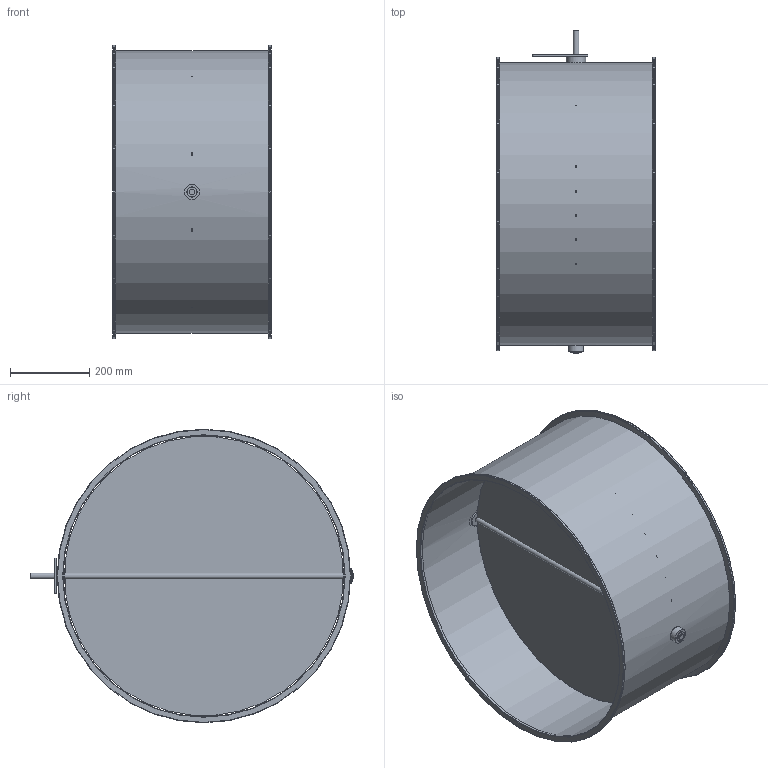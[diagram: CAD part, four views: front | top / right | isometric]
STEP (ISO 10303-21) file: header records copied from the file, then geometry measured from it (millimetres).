
FILE_DESCRIPTION(/* description */ (''),/* implementation_level */ '2;1');
FILE_NAME(/* name */ 'EA114-80B__710_L400_Belimo_Typ_NM.stp',/* time_stamp */ '2017-12-07T11:17:28+01:00',/* author */ (''),/* organization */ (''),/* preprocessor_version */ 'ST-DEVELOPER v11',/* originating_system */ 'SIEMENS UGS NX 6.0',/* authorisation */ '');
FILE_SCHEMA (('CONFIG_CONTROL_DESIGN'));
Length unit declared in the file: millimetre
Products named in the file (1): gars5544kxeq
Bounding box: 400 x 814 x 740 mm (x, y, z)
Volume: 2057251 mm3; surface area: 2772452.2 mm2
Topology: 8 solids, 8 shells, 63 faces, 135 edges, 90 vertices
Faces by surface type: cylinder 31, plane 24, torus 6, cone 2
Full cylindrical faces by diameter (mm): 6.1 x7, 15 x3, 25 x3, 25.85 x2, 26 x2, 38 x3, 49 x1, 710 x1, 712 x1, 740 x2
Entity records: 1670 total; most frequent: CARTESIAN_POINT 304, DIRECTION 280, ORIENTED_EDGE 184, EDGE_LOOP 128, AXIS2_PLACEMENT_3D 128, FACE_BOUND 114, EDGE_CURVE 92, VERTEX_POINT 80
